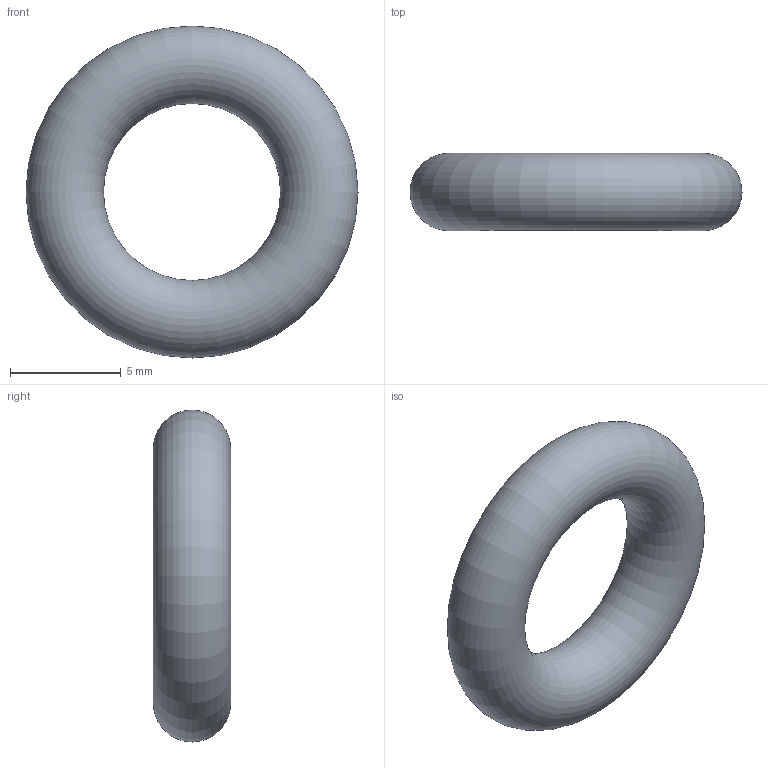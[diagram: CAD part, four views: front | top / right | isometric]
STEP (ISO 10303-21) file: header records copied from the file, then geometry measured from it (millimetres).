
FILE_DESCRIPTION( ( 'STEP AP203' ), '1' );
FILE_NAME( 'C:/Temp/Ganter_Step_05_03_2020/data/3_5/or638/O-Ring OR638-8.00-3.50-70.stp', '2020-03-12T13:44:32', ( 'License CC BY-ND 4.0' ), ( 'CADENAS' ), ' ', 'PARTsolutions', ' ' );
FILE_SCHEMA( ( 'CONFIG_CONTROL_DESIGN' ) );
Length unit declared in the file: millimetre
Products named in the file (1): _O-Ring OR638-8.00-3.50-70
Bounding box: 15 x 3.5 x 15 mm (x, y, z)
Volume: 347.6 mm3; surface area: 397.3 mm2
Topology: 1 solids, 1 shells, 1 faces, 2 edges, 1 vertices
Faces by surface type: torus 1
Entity records: 62 total; most frequent: CC_DESIGN_PERSON_AND_ORGANIZATION_ASSIGNMENT 5, PERSON_AND_ORGANIZATION_ROLE 4, DIRECTION 4, CARTESIAN_POINT 3, DATE_TIME_ROLE 2, CC_DESIGN_DATE_AND_TIME_ASSIGNMENT 2, AXIS2_PLACEMENT_3D 2, DIMENSIONAL_EXPONENTS 2
